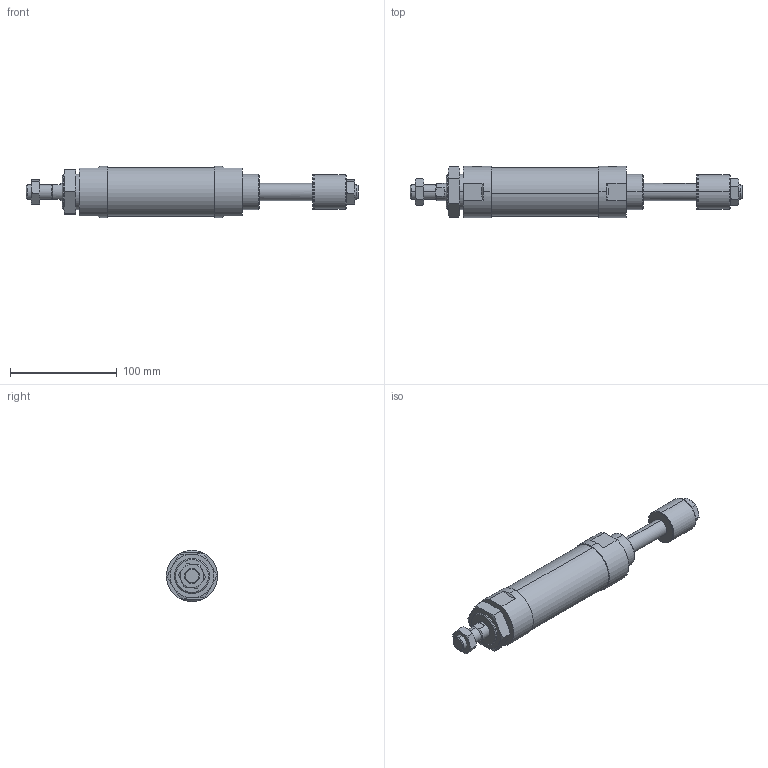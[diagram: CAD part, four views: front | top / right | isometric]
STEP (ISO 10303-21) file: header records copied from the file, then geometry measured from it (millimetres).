
FILE_DESCRIPTION (( 'STEP AP203' ), '1' );
FILE_NAME ('JGA7-40-50-N.STEP', '2016-04-20T01:59:35', ( '' ), ( '' ), 'SwSTEP 2.0', 'SolidWorks 2014', '' );
FILE_SCHEMA (( 'CONFIG_CONTROL_DESIGN' ));
Length unit declared in the file: millimetre
Products named in the file (7): M14x1.5-8mm; JGA7-40-Turn; M33x2-11mm; JGA7-40A-50; JGLH2-40B; 40-50; JGA7-40-50-N
Assembly tree (7 placements, depth 2):
  JGA7-40-50-N
    JGLH2-40B
    40-50
    JGA7-40A-50
    M14x1.5-8mm  x2
    M33x2-11mm
    JGA7-40-Turn
Bounding box: 311.5 x 48 x 48 mm (x, y, z)
Volume: 339446.5 mm3; surface area: 56230 mm2
Topology: 7 solids, 7 shells, 149 faces, 324 edges, 194 vertices
Faces by surface type: plane 51, cylinder 38, torus 38, cone 22
Entity records: 4697 total; most frequent: CARTESIAN_POINT 1201, DIRECTION 600, ORIENTED_EDGE 544, EDGE_CURVE 272, AXIS2_PLACEMENT_3D 257, VERTEX_POINT 166, EDGE_LOOP 142, ADVANCED_FACE 127
